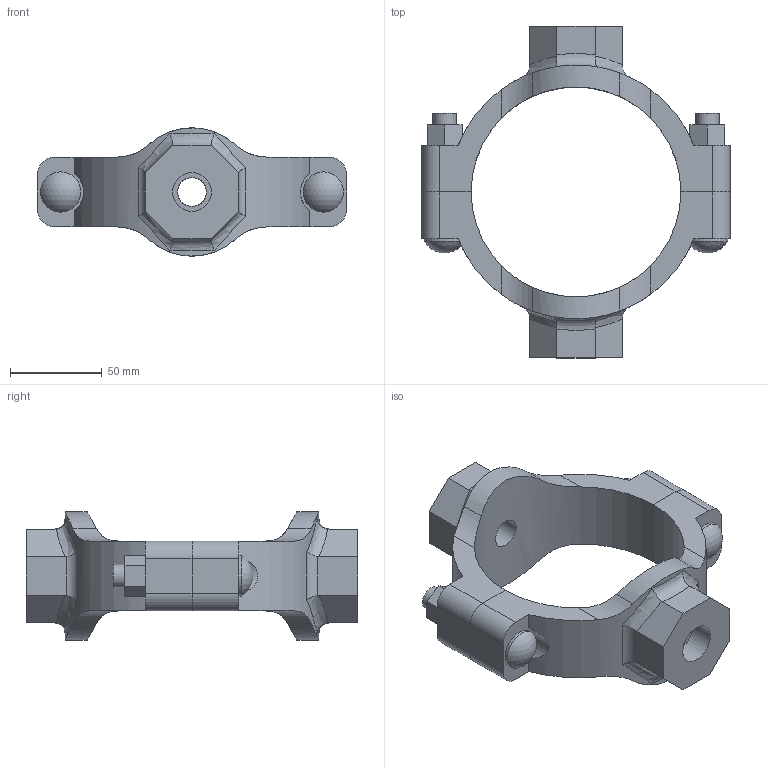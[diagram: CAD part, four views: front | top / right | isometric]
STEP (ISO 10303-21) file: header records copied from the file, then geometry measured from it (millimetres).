
FILE_DESCRIPTION(/* description */ ('VIC MECH-T BRANCH OUTLET CROSS STYLE 920N (THD)','CAx-IF Rec.Pracs.---Representation and Presentation of Product Manufacturing Information (PMI)---4.0---2014-10-13'),/* implementation_level */ '2;1');
FILE_NAME(/* name */ 'C:\Users\Vjadhav\AppData\Roaming\Autodesk\ApplicationPlugins\Back Up\Victaulic_IPS_Mechanical-Cross Outlet_Style 920N (FPT)\Victaulic_IPS_Mechanical-Cross Outlet_04.0x0.5x0.5 (100x15x15).stp',/* time_stamp */ '2020-08-06T18:57:52+05:00',/* author */ ('Vjadhav'),/* organization */ ('Victaulic'),/* preprocessor_version */ 'ST-DEVELOPER v17.2',/* originating_system */ 'Autodesk Inventor 2019',/* authorisation */ '');
FILE_SCHEMA (('AP242_MANAGED_MODEL_BASED_3D_ENGINEERING_MIM_LF { 1 0 10303 442 1 1 4 }'));
Length unit declared in the file: inch
Products named in the file (3): 920NT-04.0x0.5x0.5; 920NT-04.0x0.5; 920NT-04.0x0.5_1
Assembly tree (2 placements, depth 2):
  920NT-04.0x0.5x0.5
    920NT-04.0x0.5
    920NT-04.0x0.5_1
Bounding box: 168.4 x 180.85 x 69.82 mm (x, y, z)
Volume: 355837.7 mm3; surface area: 77949.2 mm2
Topology: 2 solids, 2 shells, 132 faces, 350 edges, 236 vertices
Faces by surface type: plane 68, cylinder 50, bspline 8, torus 4, sphere 2
Full cylindrical faces by diameter (mm): 12.7 x4, 15.799 x2, 21.336 x2, 21.982 x2
Entity records: 5234 total; most frequent: CARTESIAN_POINT 1721, ORIENTED_EDGE 700, DIRECTION 648, EDGE_CURVE 350, VERTEX_POINT 236, AXIS2_PLACEMENT_3D 231, LINE 186, VECTOR 186
